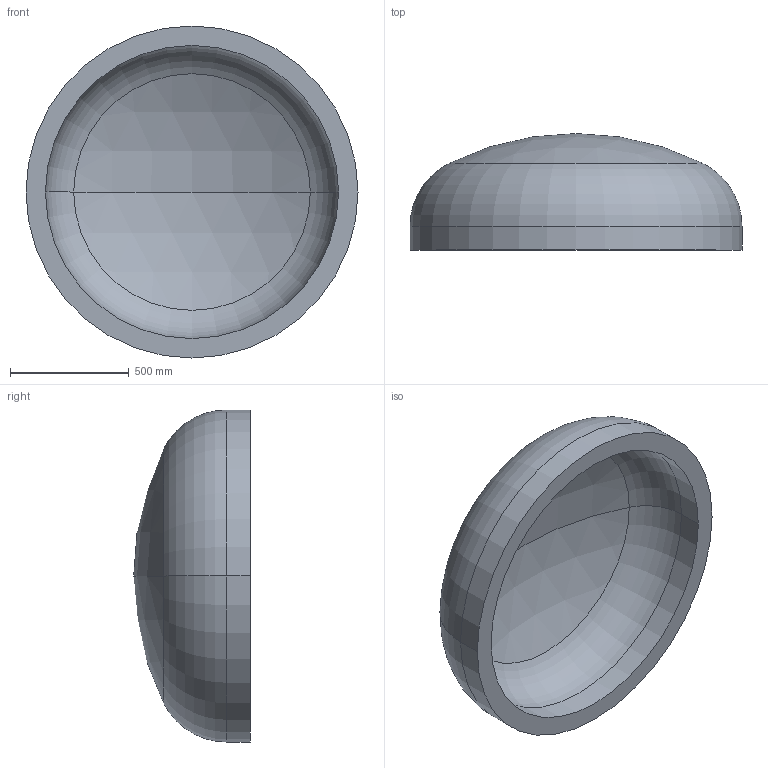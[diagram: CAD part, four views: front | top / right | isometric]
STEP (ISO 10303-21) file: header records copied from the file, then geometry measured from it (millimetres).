
FILE_DESCRIPTION (( 'STEP AP203' ), '1' );
FILE_NAME ('DIN 28013 Korbbogenform_-_Boden DIN 28013 - 1400 x 100 - I - s=82.step', '2016-07-01T10:26:07', ( '' ), ( '' ), 'SwSTEP 2.0', 'SolidWorks 2013', '' );
FILE_SCHEMA (( 'CONFIG_CONTROL_DESIGN' ));
Length unit declared in the file: millimetre
Products named in the file (1): DIN 28013 Korbbogenform_-_Boden DIN 28013 - 1400 x 100 - I - s=82
Bounding box: 1400 x 491.68 x 1400 mm (x, y, z)
Volume: 196094451.8 mm3; surface area: 5136403.8 mm2
Topology: 1 solids, 1 shells, 13 faces, 24 edges, 14 vertices
Faces by surface type: torus 4, cylinder 4, sphere 4, plane 1
Entity records: 407 total; most frequent: DIRECTION 72, CARTESIAN_POINT 52, ORIENTED_EDGE 48, AXIS2_PLACEMENT_3D 34, EDGE_CURVE 24, CIRCLE 20, VERTEX_POINT 14, EDGE_LOOP 14
